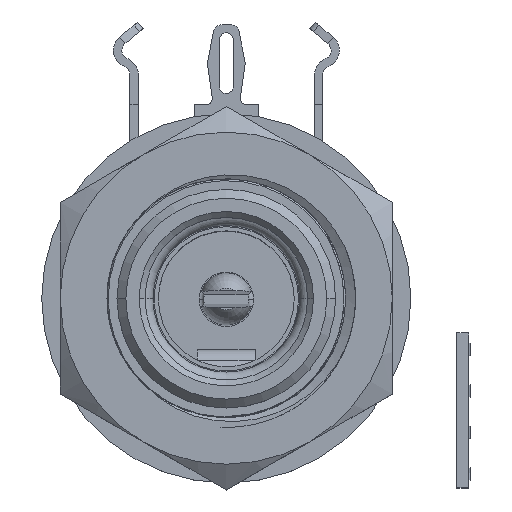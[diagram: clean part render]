
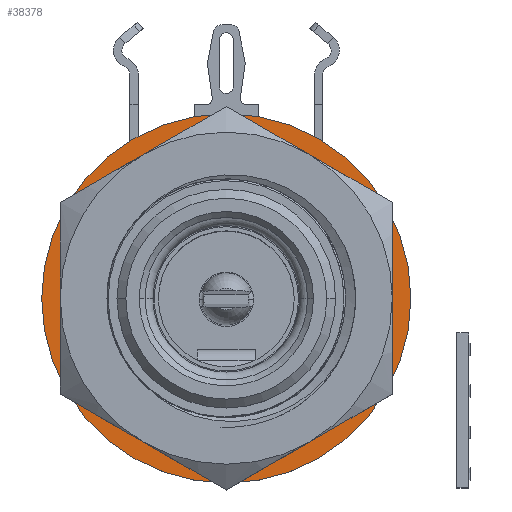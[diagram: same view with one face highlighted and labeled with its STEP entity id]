
A CAD part, top view. The second image highlights one B-rep face of the part: STEP entity #38378.
In plain terms, the highlighted planar face has unit normal (0, 0, 1).
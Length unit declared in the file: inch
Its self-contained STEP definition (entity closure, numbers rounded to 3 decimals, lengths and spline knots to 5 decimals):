
#15821 = CARTESIAN_POINT ( 'NONE',  ( 0., 0., 0.63872 ) ) ;
#15948 = CARTESIAN_POINT ( 'NONE',  ( 0.3125, 0., 0.63872 ) ) ;
#15949 = CARTESIAN_POINT ( 'NONE',  ( -0.3125, 0., 0.63872 ) ) ;
#16024 = CARTESIAN_POINT ( 'NONE',  ( -0.2225, 0., 0.63872 ) ) ;
#16027 = DIRECTION ( 'NONE',  ( -1., 0., 0. ) ) ;
#16028 = DIRECTION ( 'NONE',  ( 0., 0., -1. ) ) ;
#16029 = AXIS2_PLACEMENT_3D ( 'NONE', #16034, #16028, #16027 ) ;
#16030 = CIRCLE ( 'NONE', #16029, 0.3125 ) ;
#16031 = DIRECTION ( 'NONE',  ( -1., 0., 0. ) ) ;
#16032 = DIRECTION ( 'NONE',  ( 0., 0., -1. ) ) ;
#16033 = AXIS2_PLACEMENT_3D ( 'NONE', #16035, #16032, #16031 ) ;
#16034 = CARTESIAN_POINT ( 'NONE',  ( 0., 0., 0.63872 ) ) ;
#16035 = CARTESIAN_POINT ( 'NONE',  ( 0., 0., 0.63872 ) ) ;
#16036 = PLANE ( 'NONE',  #16033 ) ;
#16037 = FACE_BOUND ( 'NONE', #38383, .T. ) ;
#16038 = FACE_OUTER_BOUND ( 'NONE', #38379, .T. ) ;
#16071 = DIRECTION ( 'NONE',  ( -1., 0., 0. ) ) ;
#16072 = DIRECTION ( 'NONE',  ( 0., 0., -1. ) ) ;
#16073 = CARTESIAN_POINT ( 'NONE',  ( 0., 0., 0.63872 ) ) ;
#16074 = AXIS2_PLACEMENT_3D ( 'NONE', #16073, #16072, #16071 ) ;
#16075 = CIRCLE ( 'NONE', #16074, 0.3125 ) ;
#16138 = CIRCLE ( 'NONE', #16179, 0.2225 ) ;
#16168 = CIRCLE ( 'NONE', #16173, 0.2225 ) ;
#16173 = AXIS2_PLACEMENT_3D ( 'NONE', #15821, #16367, #16366 ) ;
#16176 = DIRECTION ( 'NONE',  ( -1., 0., 0. ) ) ;
#16177 = DIRECTION ( 'NONE',  ( 0., 0., -1. ) ) ;
#16178 = CARTESIAN_POINT ( 'NONE',  ( 0., 0., 0.63872 ) ) ;
#16179 = AXIS2_PLACEMENT_3D ( 'NONE', #16178, #16177, #16176 ) ;
#16365 = CARTESIAN_POINT ( 'NONE',  ( 0.2225, 0., 0.63872 ) ) ;
#16366 = DIRECTION ( 'NONE',  ( -1., 0., 0. ) ) ;
#16367 = DIRECTION ( 'NONE',  ( 0., 0., -1. ) ) ;
#38344 = VERTEX_POINT ( 'NONE', #15949 ) ;
#38345 = VERTEX_POINT ( 'NONE', #15948 ) ;
#38363 = EDGE_CURVE ( 'NONE', #38344, #38345, #16075, .T. ) ;
#38378 = ADVANCED_FACE ( 'NONE', ( #16038, #16037 ), #16036, .F. ) ;
#38379 = EDGE_LOOP ( 'NONE', ( #38380, #38382 ) ) ;
#38380 = ORIENTED_EDGE ( 'NONE', *, *, #38381, .F. ) ;
#38381 = EDGE_CURVE ( 'NONE', #38345, #38344, #16030, .T. ) ;
#38382 = ORIENTED_EDGE ( 'NONE', *, *, #38363, .F. ) ;
#38383 = EDGE_LOOP ( 'NONE', ( #38384, #38388 ) ) ;
#38384 = ORIENTED_EDGE ( 'NONE', *, *, #38394, .T. ) ;
#38387 = VERTEX_POINT ( 'NONE', #16024 ) ;
#38388 = ORIENTED_EDGE ( 'NONE', *, *, #38389, .T. ) ;
#38389 = EDGE_CURVE ( 'NONE', #38387, #38395, #16138, .T. ) ;
#38394 = EDGE_CURVE ( 'NONE', #38395, #38387, #16168, .T. ) ;
#38395 = VERTEX_POINT ( 'NONE', #16365 ) ;
